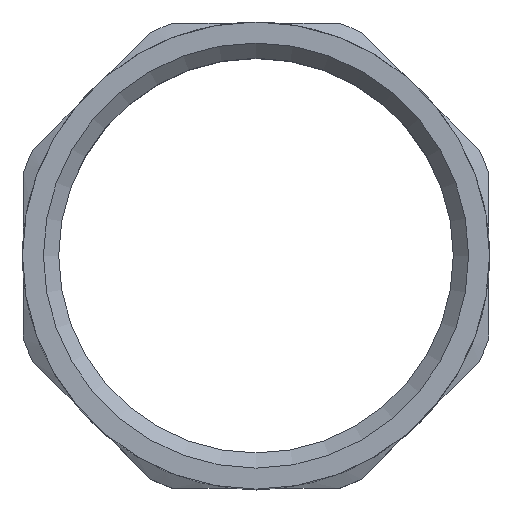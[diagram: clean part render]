
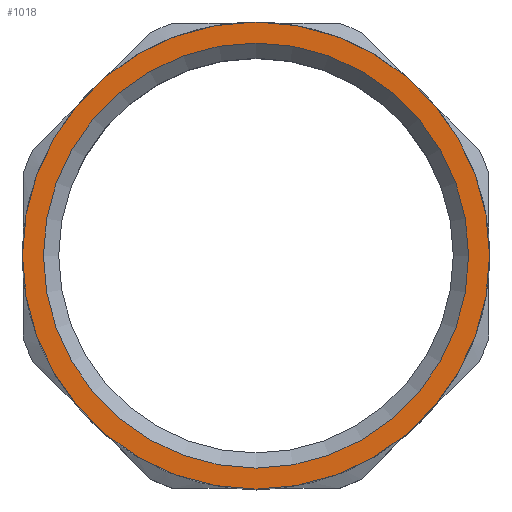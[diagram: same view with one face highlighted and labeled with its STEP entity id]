
A CAD part, top view. The second image highlights one B-rep face of the part: STEP entity #1018.
In plain terms, the highlighted planar face has unit normal (0, 0, 1).
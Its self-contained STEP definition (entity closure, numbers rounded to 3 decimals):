
#36=FACE_BOUND('',#193,.T.);
#133=FACE_OUTER_BOUND('',#192,.T.);
#192=EDGE_LOOP('',(#891));
#193=EDGE_LOOP('',(#892));
#356=CIRCLE('',#1073,23.05);
#381=CIRCLE('',#1124,20.976);
#476=VERTEX_POINT('',#1703);
#487=VERTEX_POINT('',#1783);
#600=EDGE_CURVE('',#476,#476,#356,.T.);
#635=EDGE_CURVE('',#487,#487,#381,.T.);
#891=ORIENTED_EDGE('',*,*,#600,.F.);
#892=ORIENTED_EDGE('',*,*,#635,.T.);
#968=PLANE('',#1125);
#1018=ADVANCED_FACE('',(#133,#36),#968,.T.);
#1073=AXIS2_PLACEMENT_3D('',#1704,#1289,#1290);
#1124=AXIS2_PLACEMENT_3D('',#1784,#1397,#1398);
#1125=AXIS2_PLACEMENT_3D('',#1785,#1399,#1400);
#1289=DIRECTION('center_axis',(0.,0.,-1.));
#1290=DIRECTION('ref_axis',(1.,0.,0.));
#1397=DIRECTION('center_axis',(0.,0.,-1.));
#1398=DIRECTION('ref_axis',(1.,0.,0.));
#1399=DIRECTION('center_axis',(0.,0.,1.));
#1400=DIRECTION('ref_axis',(1.,0.,0.));
#1703=CARTESIAN_POINT('',(0.,23.05,24.5));
#1704=CARTESIAN_POINT('Origin',(0.,0.,24.5));
#1783=CARTESIAN_POINT('',(0.,20.976,24.5));
#1784=CARTESIAN_POINT('Origin',(0.,0.,24.5));
#1785=CARTESIAN_POINT('Origin',(0.,23.05,24.5));
